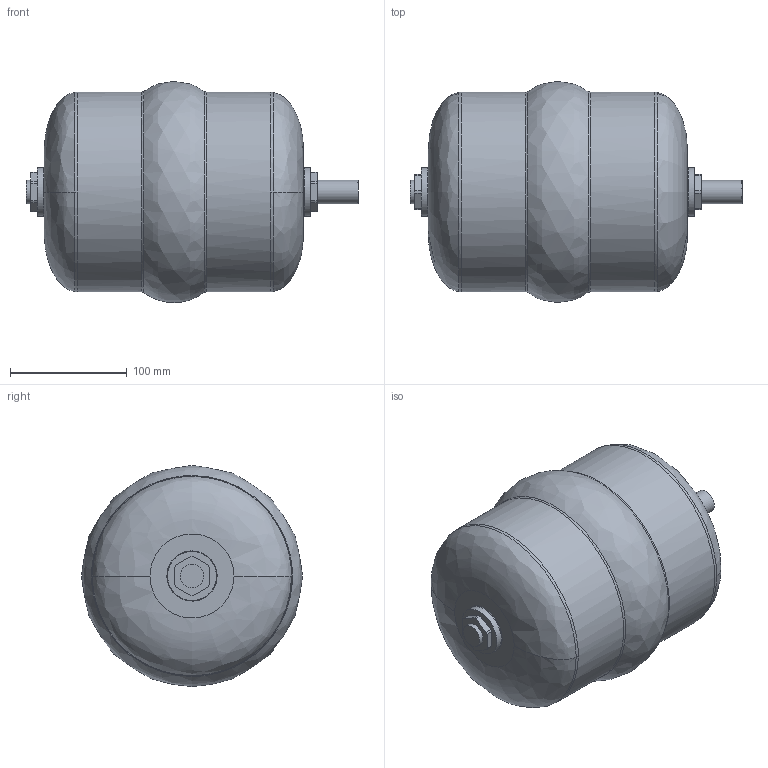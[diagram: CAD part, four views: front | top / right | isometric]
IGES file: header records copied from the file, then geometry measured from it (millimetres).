
Global section: file name: SW4-165mm; native system: Autodesk Inventor 2020; preprocessor: unknown; date: 20210423.112821; units: millimetre
Bounding box: 284.5 x 189.5 x 189.5 mm (x, y, z)
Volume: 5044547.7 mm3; surface area: 157216.4 mm2
Topology: 1 solids, 1 shells, 51 faces, 133 edges, 90 vertices
Faces by surface type: bspline 51
